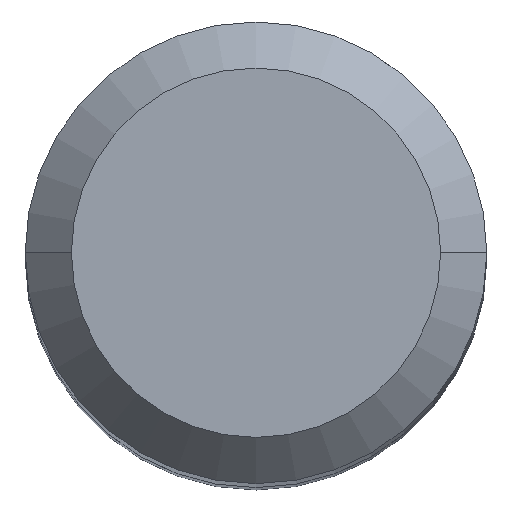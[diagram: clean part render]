
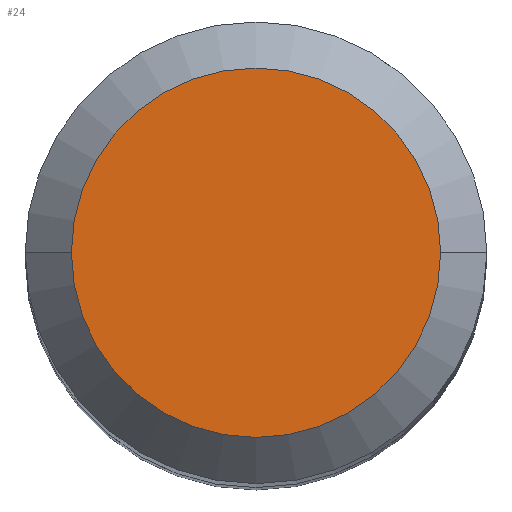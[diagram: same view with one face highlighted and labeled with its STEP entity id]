
A CAD part, top view. The second image highlights one B-rep face of the part: STEP entity #24.
In plain terms, the highlighted planar face has unit normal (0, 0, 1).
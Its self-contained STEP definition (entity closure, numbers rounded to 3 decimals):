
#24 = ADVANCED_FACE ( 'NONE', ( #395 ), #65, .T. ) ;
#63 = DIRECTION ( 'NONE',  ( 0., 0., -1. ) ) ;
#65 = PLANE ( 'NONE',  #327 ) ;
#107 = CARTESIAN_POINT ( 'NONE',  ( 0., 4., 0. ) ) ;
#127 = AXIS2_PLACEMENT_3D ( 'NONE', #384, #424, #374 ) ;
#165 = CARTESIAN_POINT ( 'NONE',  ( -4., 0., 0. ) ) ;
#169 = DIRECTION ( 'NONE',  ( 1., 0., 0. ) ) ;
#203 = EDGE_CURVE ( 'NONE', #642, #577, #296, .T. ) ;
#221 = DIRECTION ( 'NONE',  ( -1., 0., 0. ) ) ;
#270 = DIRECTION ( 'NONE',  ( 0., 0., 1. ) ) ;
#296 = CIRCLE ( 'NONE', #601, 4. ) ;
#327 = AXIS2_PLACEMENT_3D ( 'NONE', #107, #270, #169 ) ;
#347 = CIRCLE ( 'NONE', #127, 4. ) ;
#365 = EDGE_LOOP ( 'NONE', ( #633, #536 ) ) ;
#374 = DIRECTION ( 'NONE',  ( -1., 0., 0. ) ) ;
#384 = CARTESIAN_POINT ( 'NONE',  ( 0., 0., 0. ) ) ;
#395 = FACE_OUTER_BOUND ( 'NONE', #365, .T. ) ;
#424 = DIRECTION ( 'NONE',  ( 0., 0., -1. ) ) ;
#536 = ORIENTED_EDGE ( 'NONE', *, *, #648, .F. ) ;
#553 = CARTESIAN_POINT ( 'NONE',  ( 0., 0., 0. ) ) ;
#577 = VERTEX_POINT ( 'NONE', #645 ) ;
#601 = AXIS2_PLACEMENT_3D ( 'NONE', #553, #63, #221 ) ;
#633 = ORIENTED_EDGE ( 'NONE', *, *, #203, .F. ) ;
#642 = VERTEX_POINT ( 'NONE', #165 ) ;
#645 = CARTESIAN_POINT ( 'NONE',  ( 4., 0., 0. ) ) ;
#648 = EDGE_CURVE ( 'NONE', #577, #642, #347, .T. ) ;
